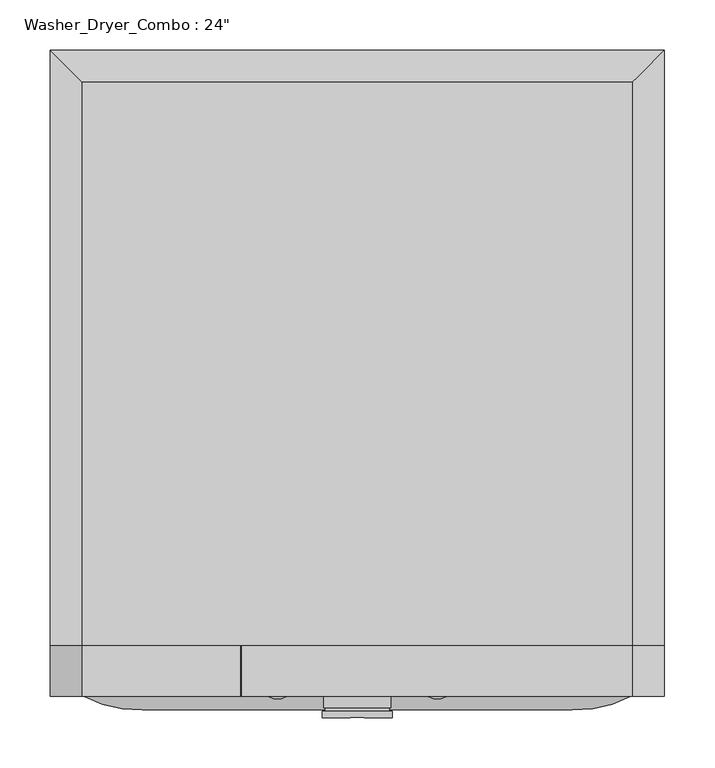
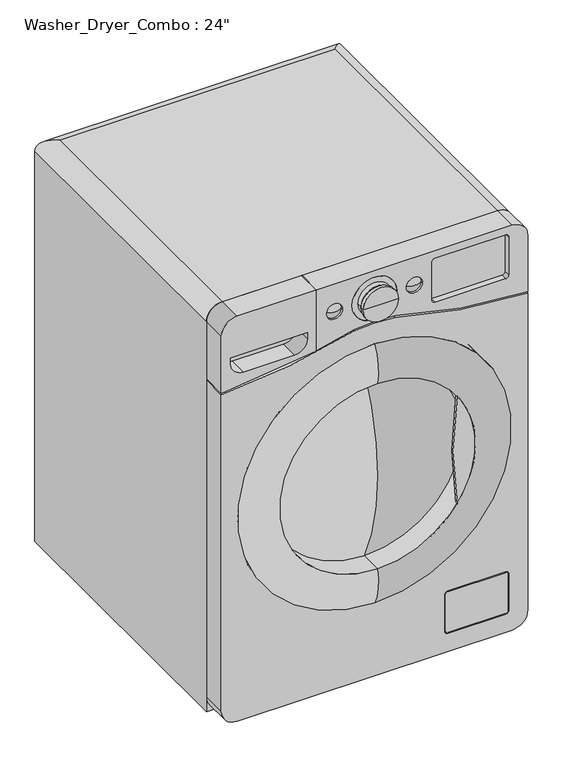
"""IFC4 building model written with IfcOpenShell, lengths in millimetres: proxy geometry."""

from ifc_helpers import new_model, si_unit, point, frame, frame_2d, origin, place, context, project, spatial, polyline, circle_curve, ellipse_curve, trimmed, segment, composite_curve, outline, extrude, source, transform, mapped, element, save
from ifc_brep_helpers import plane_surface, cylinder_surface, revolved_surface, advanced_brep


def proxy_f3e01b1d(model_context):
    return source(origin(), model_context, "Body", "SolidModel", [
        advanced_brep(
        [(-273.05, -692.15, 850.9), (273.05, -692.15, 850.9), (273.05, -133.35, 850.9), (-273.05, -133.35, 850.9), (304.8, -101.6, 0.0), (304.8, -692.15, 0.0), (-304.8, -692.15, 0.0), (-304.8, -101.6, 0.0), (-304.8, -101.6, 819.15), (304.8, -101.6, 819.15), (-304.8, -692.15, 819.15), (304.8, -692.15, 819.15)],
        [
            (0, 1),
            (1, 2),
            (2, 3),
            (3, 0),
            (4, 5),
            (5, 6),
            (6, 7),
            (7, 4),
            (7, 8),
            (8, 9),
            (9, 4),
            (6, 10),
            (10, 8),
            (5, 11),
            (11, 1, circle_curve(frame((273.05, -692.15, 819.15), z_axis=(0.0, -1.0, 0.0), x_axis=(-1.0, 0.0, 0.0)), 31.75)),
            (0, 10, circle_curve(frame((-273.05, -692.15, 819.15), z_axis=(0.0, -1.0, 0.0), x_axis=(1.0, 0.0, 0.0)), 31.75)),
            (9, 11),
            (9, 2, ellipse_curve(frame((273.05, -133.35, 819.15), z_axis=(0.7071067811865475, -0.7071067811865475, 0.0), x_axis=(0.7071067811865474, 0.7071067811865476, 0.0)), 44.9012806, 31.75)),
            (8, 3, ellipse_curve(frame((-273.05, -133.35, 819.15), z_axis=(0.7071067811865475, 0.7071067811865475, 0.0), x_axis=(-0.7071067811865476, 0.7071067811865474, 0.0)), 44.9012806, 31.75)),
        ],
        [
            plane_surface(frame((-304.8, -101.6, 850.9), z_axis=(0.0, 0.0, 1.0), x_axis=(-1.0, 0.0, 0.0))),
            plane_surface(frame((-304.8, -101.6, 0.0), z_axis=(0.0, 0.0, -1.0), x_axis=(1.0, 0.0, 0.0))),
            plane_surface(frame((304.8, -101.6, 850.9), z_axis=(0.0, 1.0, 0.0), x_axis=(0.0, 0.0, -1.0))),
            plane_surface(frame((-304.8, -101.6, 850.9), z_axis=(-1.0, 0.0, 0.0), x_axis=(0.0, 0.0, -1.0))),
            plane_surface(frame((-304.8, -692.15, 850.9), z_axis=(0.0, -1.0, 0.0), x_axis=(0.0, 0.0, -1.0))),
            plane_surface(frame((304.8, -692.15, 850.9), z_axis=(1.0, 0.0, 0.0), x_axis=(0.0, 0.0, -1.0))),
            cylinder_surface(frame((273.05, -692.15, 819.15), z_axis=(0.0, 1.0, 0.0), x_axis=(-1.0, 0.0, 0.0)), 31.75),
            cylinder_surface(frame((304.8, -133.35, 819.15), z_axis=(-1.0, 0.0, 0.0), x_axis=(0.0, -1.0, 0.0)), 31.75),
            cylinder_surface(frame((-273.05, -101.6, 819.15), z_axis=(0.0, -1.0, 0.0), x_axis=(1.0, 0.0, 0.0)), 31.75),
        ],
        [
            (0, [[1, 2, 3, 4]]),
            (1, [[5, 6, 7, 8]]),
            (2, [[-8, 9, 10, 11]]),
            (3, [[-7, 12, 13, -9]]),
            (4, [[-6, 14, 15, -1, 16, -12]]),
            (5, [[-5, -11, 17, -14]]),
            (6, [[18, -2, -15, -17]]),
            (7, [[-18, -10, 19, -3]]),
            (8, [[-19, -13, -16, -4]]),
        ],
    ),
        advanced_brep(
        [(273.05, -692.15, 850.9), (304.8, -692.15, 819.15), (304.8, -692.15, 700.0773423), (41.197628, -692.15, 742.0082685), (-41.197628, -692.15, 742.0082685), (-114.8640352, -692.15, 723.4158557), (-114.8640352, -692.15, 850.9), (-63.5, -692.15, 793.1071157), (-95.25, -692.15, 793.1071157), (95.25, -692.15, 793.1071157), (63.5, -692.15, 793.1071157), (-44.45, -692.15, 793.1071157), (44.45, -692.15, 793.1071157), (-41.197628, -742.95, 742.0082685), (41.197628, -742.95, 742.0082685), (304.8, -742.95, 700.0773423), (304.8, -742.95, 819.15), (273.05, -742.95, 850.9), (-114.8640352, -742.95, 850.9), (-114.8640352, -742.95, 723.4158557), (-63.5, -742.95, 793.1071157), (-95.25, -742.95, 793.1071157), (95.25, -742.95, 793.1071157), (63.5, -742.95, 793.1071157), (260.35, -742.95, 742.95), (120.65, -742.95, 742.95), (114.3, -742.95, 749.3), (114.3, -742.95, 828.675), (120.65, -742.95, 835.025), (260.35, -742.95, 835.025), (266.7, -742.95, 828.675), (266.7, -742.95, 749.3), (44.45, -742.95, 793.1071157), (-44.45, -742.95, 793.1071157), (260.35, -730.25, 742.95), (266.7, -730.25, 749.3), (266.7, -730.25, 828.675), (260.35, -730.25, 835.025), (120.65, -730.25, 835.025), (114.3, -730.25, 828.675), (114.3, -730.25, 749.3), (120.65, -730.25, 742.95)],
        [
            (0, 1, circle_curve(frame((273.05, -692.15, 819.15), z_axis=(0.0, 1.0, 0.0), x_axis=(-1.0, 0.0, 0.0)), 31.75)),
            (1, 2),
            (2, 3, circle_curve(frame((339.900978, -692.15, 1770.2876052), z_axis=(0.0, 1.0, 0.0), x_axis=(-1.0, 0.0, 0.0)), 1070.7857328)),
            (3, 4, circle_curve(frame((0.0, -692.15, 425.45), z_axis=(0.0, -1.0, 0.0), x_axis=(-1.0, 0.0, 0.0)), 319.22779)),
            (4, 5, circle_curve(frame((-339.900978, -692.15, 1770.2876052), z_axis=(0.0, 1.0, 0.0), x_axis=(-1.0, 0.0, 0.0)), 1070.7857328)),
            (5, 6),
            (6, 0),
            (7, 8, circle_curve(frame((-79.375, -692.15, 793.1071157), z_axis=(0.0, -1.0, 0.0), x_axis=(-1.0, 0.0, 0.0)), 15.875)),
            (8, 7, circle_curve(frame((-79.375, -692.15, 793.1071157), z_axis=(0.0, -1.0, 0.0), x_axis=(-1.0, 0.0, 0.0)), 15.875)),
            (9, 10, circle_curve(frame((79.375, -692.15, 793.1071157), z_axis=(0.0, -1.0, 0.0), x_axis=(-1.0, 0.0, 0.0)), 15.875)),
            (10, 9, circle_curve(frame((79.375, -692.15, 793.1071157), z_axis=(0.0, -1.0, 0.0), x_axis=(-1.0, 0.0, 0.0)), 15.875)),
            (11, 12, circle_curve(frame((0.0, -692.15, 793.1071157), z_axis=(0.0, -1.0, 0.0), x_axis=(-1.0, 0.0, 0.0)), 44.45)),
            (12, 11, circle_curve(frame((0.0, -692.15, 793.1071157), z_axis=(0.0, -1.0, 0.0), x_axis=(-1.0, 0.0, 0.0)), 44.45)),
            (13, 14, circle_curve(frame((0.0, -742.95, 425.45), z_axis=(0.0, 1.0, 0.0), x_axis=(-1.0, 0.0, 0.0)), 319.22779)),
            (14, 15, circle_curve(frame((339.900978, -742.95, 1770.2876052), z_axis=(0.0, -1.0, 0.0), x_axis=(-1.0, 0.0, 0.0)), 1070.7857328)),
            (15, 16),
            (16, 17, circle_curve(frame((273.05, -742.95, 819.15), z_axis=(0.0, -1.0, 0.0), x_axis=(-1.0, 0.0, 0.0)), 31.75)),
            (17, 18),
            (18, 19),
            (19, 13, circle_curve(frame((-339.900978, -742.95, 1770.2876052), z_axis=(0.0, -1.0, 0.0), x_axis=(-1.0, 0.0, 0.0)), 1070.7857328)),
            (20, 21, circle_curve(frame((-79.375, -742.95, 793.1071157), z_axis=(0.0, 1.0, 0.0), x_axis=(-1.0, 0.0, 0.0)), 15.875)),
            (21, 20, circle_curve(frame((-79.375, -742.95, 793.1071157), z_axis=(0.0, 1.0, 0.0), x_axis=(-1.0, 0.0, 0.0)), 15.875)),
            (22, 23, circle_curve(frame((79.375, -742.95, 793.1071157), z_axis=(0.0, 1.0, 0.0), x_axis=(-1.0, 0.0, 0.0)), 15.875)),
            (23, 22, circle_curve(frame((79.375, -742.95, 793.1071157), z_axis=(0.0, 1.0, 0.0), x_axis=(-1.0, 0.0, 0.0)), 15.875)),
            (24, 25),
            (25, 26, circle_curve(frame((120.65, -742.95, 749.3), z_axis=(0.0, 1.0, 0.0), x_axis=(-1.0, 0.0, 0.0)), 6.35)),
            (26, 27),
            (27, 28, circle_curve(frame((120.65, -742.95, 828.675), z_axis=(0.0, 1.0, 0.0), x_axis=(-1.0, 0.0, 0.0)), 6.35)),
            (28, 29),
            (29, 30, circle_curve(frame((260.35, -742.95, 828.675), z_axis=(0.0, 1.0, 0.0), x_axis=(-1.0, 0.0, 0.0)), 6.35)),
            (30, 31),
            (31, 24, circle_curve(frame((260.35, -742.95, 749.3), z_axis=(0.0, 1.0, 0.0), x_axis=(-1.0, 0.0, 0.0)), 6.35)),
            (32, 33, circle_curve(frame((0.0, -742.95, 793.1071157), z_axis=(0.0, 1.0, 0.0), x_axis=(-1.0, 0.0, 0.0)), 44.45)),
            (33, 32, circle_curve(frame((0.0, -742.95, 793.1071157), z_axis=(0.0, 1.0, 0.0), x_axis=(-1.0, 0.0, 0.0)), 44.45)),
            (17, 0),
            (6, 18),
            (16, 1),
            (15, 2),
            (14, 3),
            (13, 4),
            (19, 5),
            (34, 35, circle_curve(frame((260.35, -730.25, 749.3), z_axis=(0.0, -1.0, 0.0), x_axis=(-1.0, 0.0, 0.0)), 6.35)),
            (35, 36),
            (36, 37, circle_curve(frame((260.35, -730.25, 828.675), z_axis=(0.0, -1.0, 0.0), x_axis=(-1.0, 0.0, 0.0)), 6.35)),
            (37, 38),
            (38, 39, circle_curve(frame((120.65, -730.25, 828.675), z_axis=(0.0, -1.0, 0.0), x_axis=(-1.0, 0.0, 0.0)), 6.35)),
            (39, 40),
            (40, 41, circle_curve(frame((120.65, -730.25, 749.3), z_axis=(0.0, -1.0, 0.0), x_axis=(-1.0, 0.0, 0.0)), 6.35)),
            (41, 34),
            (41, 25),
            (24, 34),
            (40, 26),
            (39, 27),
            (38, 28),
            (37, 29),
            (36, 30),
            (35, 31),
            (7, 20),
            (21, 8),
            (9, 22),
            (23, 10),
            (11, 33),
            (32, 12),
        ],
        [
            plane_surface(frame((241.3, -692.15, 819.15), z_axis=(0.0, 1.0, 0.0), x_axis=(0.0, 0.0, 1.0))),
            plane_surface(frame((241.3, -742.95, 819.15), z_axis=(0.0, -1.0, 0.0), x_axis=(0.0, 0.0, -1.0))),
            plane_surface(frame((-273.05, -692.15, 850.9), z_axis=(0.0, 0.0, 1.0), x_axis=(0.0, -1.0, 0.0))),
            cylinder_surface(frame((273.05, -742.95, 819.15), z_axis=(0.0, 1.0, 0.0), x_axis=(-1.0, 0.0, 0.0)), 31.75),
            plane_surface(frame((304.8, -692.15, 819.15), z_axis=(1.0, 0.0, 0.0), x_axis=(0.0, -1.0, 0.0))),
            cylinder_surface(frame((339.900978, -742.95, 1770.2876052), z_axis=(0.0, 1.0, 0.0), x_axis=(-1.0, 0.0, 0.0)), 1070.7857328),
            revolved_surface(polyline([(-319.22779, -742.95, 425.45), (-319.22779, -692.15, 425.45)]), (0.0, -742.95, 425.45), (0.0, -1.0, 0.0)),
            cylinder_surface(frame((-339.900978, -742.95, 1770.2876052), z_axis=(0.0, 1.0, 0.0), x_axis=(-1.0, 0.0, 0.0)), 1070.7857328),
            plane_surface(frame((-114.8640352, -692.15, 850.9), z_axis=(-1.0, 0.0, 0.0), x_axis=(0.0, -1.0, 0.0))),
            plane_surface(frame((120.65, -730.25, 742.95), z_axis=(0.0, -1.0, 0.0), x_axis=(-1.0, 0.0, 0.0))),
            plane_surface(frame((260.35, -730.25, 742.95), z_axis=(0.0, 0.0, 1.0), x_axis=(0.0, -1.0, 0.0))),
            revolved_surface(polyline([(114.30000000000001, -730.25, 749.3), (114.30000000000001, -742.95, 749.3)]), (120.65, -742.95, 749.3), (0.0, 1.0, 0.0)),
            plane_surface(frame((114.3, -730.25, 749.3), z_axis=(1.0, 0.0, 0.0), x_axis=(0.0, -1.0, 0.0))),
            revolved_surface(polyline([(114.30000000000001, -730.25, 828.675), (114.30000000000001, -742.95, 828.675)]), (120.65, -742.95, 828.675), (0.0, 1.0, 0.0)),
            plane_surface(frame((120.65, -730.25, 835.025), z_axis=(0.0, 0.0, -1.0), x_axis=(0.0, -1.0, 0.0))),
            revolved_surface(polyline([(254.00000000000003, -730.25, 828.675), (254.00000000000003, -742.95, 828.675)]), (260.35, -742.95, 828.675), (0.0, 1.0, 0.0)),
            plane_surface(frame((266.7, -730.25, 828.675), z_axis=(-1.0, 0.0, 0.0), x_axis=(0.0, -1.0, 0.0))),
            revolved_surface(polyline([(254.00000000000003, -730.25, 749.3), (254.00000000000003, -742.95, 749.3)]), (260.35, -742.95, 749.3), (0.0, 1.0, 0.0)),
            revolved_surface(polyline([(-95.25, -742.95, 793.1071157), (-95.25, -692.15, 793.1071157)]), (-79.375, -742.95, 793.1071157), (0.0, -1.0, 0.0)),
            revolved_surface(polyline([(63.5, -742.95, 793.1071157), (63.5, -692.15, 793.1071157)]), (79.375, -742.95, 793.1071157), (0.0, -1.0, 0.0)),
            revolved_surface(polyline([(-44.45, -692.15, 793.1071157), (-44.45, -742.95, 793.1071157)]), (0.0, -742.95, 793.1071157), (0.0, 1.0, 0.0)),
        ],
        [
            (0, [[1, 2, 3, 4, 5, 6, 7], [8, 9], [10, 11], [12, 13]]),
            (1, [[14, 15, 16, 17, 18, 19, 20], [21, 22], [23, 24], [25, 26, 27, 28, 29, 30, 31, 32], [33, 34]]),
            (2, [[35, -7, 36, -18]]),
            (3, [[-1, -35, -17, 37]]),
            (4, [[-2, -37, -16, 38]]),
            (5, [[-3, -38, -15, 39]]),
            (6, [[-4, -39, -14, 40]]),
            (7, [[-40, -20, 41, -5]]),
            (8, [[-6, -41, -19, -36]]),
            (9, [[42, 43, 44, 45, 46, 47, 48, 49]]),
            (10, [[-49, 50, -25, 51]]),
            (11, [[-48, 52, -26, -50]]),
            (12, [[-47, 53, -27, -52]]),
            (13, [[-46, 54, -28, -53]]),
            (14, [[-45, 55, -29, -54]]),
            (15, [[-44, 56, -30, -55]]),
            (16, [[-43, 57, -31, -56]]),
            (17, [[-42, -51, -32, -57]]),
            (18, [[-8, 58, -22, 59]]),
            (18, [[-9, -59, -21, -58]]),
            (19, [[-10, 60, -24, 61]]),
            (19, [[-11, -61, -23, -60]]),
            (20, [[62, -33, 63, -12]]),
            (20, [[-62, -13, -63, -34]]),
        ],
    ),
        advanced_brep(
        [(-304.8, -692.15, 700.0773423), (-304.8, -692.15, 819.15), (-273.05, -692.15, 850.9), (-116.4515352, -692.15, 850.9), (-116.4515352, -692.15, 723.0758635), (-273.05, -742.95, 850.9), (-304.8, -742.95, 819.15), (-304.8, -742.95, 700.0773423), (-116.4515352, -742.95, 723.0758635), (-116.4515352, -742.95, 850.9), (-133.35, -742.95, 767.7071157), (-133.35, -742.95, 755.0071157), (-158.75, -742.95, 729.6071157), (-260.35, -742.95, 729.6071157), (-285.75, -742.95, 755.0071157), (-285.75, -742.95, 767.7071157), (-133.35, -704.85, 767.7071157), (-285.75, -704.85, 767.7071157), (-285.75, -704.85, 755.0071157), (-260.35, -704.85, 729.6071157), (-158.75, -704.85, 729.6071157), (-133.35, -704.85, 755.0071157)],
        [
            (0, 1),
            (1, 2, circle_curve(frame((-273.05, -692.15, 819.15), z_axis=(0.0, 1.0, 0.0), x_axis=(-1.0, 0.0, 0.0)), 31.75)),
            (2, 3),
            (3, 4),
            (4, 0, circle_curve(frame((-339.900978, -692.15, 1770.2876052), z_axis=(0.0, 1.0, 0.0), x_axis=(-1.0, 0.0, 0.0)), 1070.7857328)),
            (5, 6, circle_curve(frame((-273.05, -742.95, 819.15), z_axis=(0.0, -1.0, 0.0), x_axis=(-1.0, 0.0, 0.0)), 31.75)),
            (6, 7),
            (7, 8, circle_curve(frame((-339.900978, -742.95, 1770.2876052), z_axis=(0.0, -1.0, 0.0), x_axis=(-1.0, 0.0, 0.0)), 1070.7857328)),
            (8, 9),
            (9, 5),
            (10, 11),
            (11, 12, circle_curve(frame((-158.75, -742.95, 755.0071157), z_axis=(0.0, 1.0, 0.0), x_axis=(-1.0, 0.0, 0.0)), 25.4)),
            (12, 13),
            (13, 14, circle_curve(frame((-260.35, -742.95, 755.0071157), z_axis=(0.0, 1.0, 0.0), x_axis=(-1.0, 0.0, 0.0)), 25.4)),
            (14, 15),
            (15, 10),
            (2, 5),
            (9, 3),
            (7, 0),
            (4, 8),
            (6, 1),
            (16, 17),
            (17, 18),
            (18, 19, circle_curve(frame((-260.35, -704.85, 755.0071157), z_axis=(0.0, -1.0, 0.0), x_axis=(-1.0, 0.0, 0.0)), 25.4)),
            (19, 20),
            (20, 21, circle_curve(frame((-158.75, -704.85, 755.0071157), z_axis=(0.0, -1.0, 0.0), x_axis=(-1.0, 0.0, 0.0)), 25.4)),
            (21, 16),
            (21, 11),
            (10, 16),
            (20, 12),
            (19, 13),
            (18, 14),
            (17, 15),
        ],
        [
            plane_surface(frame((241.3, -692.15, 819.15), z_axis=(0.0, 1.0, 0.0), x_axis=(0.0, 0.0, 1.0))),
            plane_surface(frame((241.3, -742.95, 819.15), z_axis=(0.0, -1.0, 0.0), x_axis=(0.0, 0.0, -1.0))),
            plane_surface(frame((-273.05, -692.15, 850.9), z_axis=(0.0, 0.0, 1.0), x_axis=(0.0, -1.0, 0.0))),
            cylinder_surface(frame((-339.900978, -742.95, 1770.2876052), z_axis=(0.0, 1.0, 0.0), x_axis=(-1.0, 0.0, 0.0)), 1070.7857328),
            plane_surface(frame((-304.8, -692.15, 700.0773423), z_axis=(-1.0, 0.0, 0.0), x_axis=(0.0, -1.0, 0.0))),
            cylinder_surface(frame((-273.05, -742.95, 819.15), z_axis=(0.0, 1.0, 0.0), x_axis=(-1.0, 0.0, 0.0)), 31.75),
            plane_surface(frame((-133.35, -704.85, 767.7071157), z_axis=(0.0, -1.0, 0.0), x_axis=(0.0, 0.0, -1.0))),
            plane_surface(frame((-133.35, -704.85, 767.7071157), z_axis=(-1.0, 0.0, 0.0), x_axis=(0.0, -1.0, 0.0))),
            revolved_surface(polyline([(-184.15, -704.85, 755.0071157), (-184.15, -742.95, 755.0071157)]), (-158.75, -742.95, 755.0071157), (0.0, 1.0, 0.0)),
            plane_surface(frame((-158.75, -704.85, 729.6071157), z_axis=(0.0, 0.0, 1.0), x_axis=(0.0, -1.0, 0.0))),
            revolved_surface(polyline([(-285.75, -704.85, 755.0071157), (-285.75, -742.95, 755.0071157)]), (-260.35, -742.95, 755.0071157), (0.0, 1.0, 0.0)),
            plane_surface(frame((-285.75, -704.85, 755.0071157), z_axis=(1.0, 0.0, 0.0), x_axis=(0.0, -1.0, 0.0))),
            plane_surface(frame((-285.75, -704.85, 767.7071157), z_axis=(0.0, 0.0, -1.0), x_axis=(0.0, -1.0, 0.0))),
            plane_surface(frame((-116.4515352, -692.15, 722.1031644), z_axis=(1.0, 0.0, 0.0), x_axis=(0.0, -1.0, 0.0))),
        ],
        [
            (0, [[1, 2, 3, 4, 5]]),
            (1, [[6, 7, 8, 9, 10], [11, 12, 13, 14, 15, 16]]),
            (2, [[17, -10, 18, -3]]),
            (3, [[19, -5, 20, -8]]),
            (4, [[-1, -19, -7, 21]]),
            (5, [[-2, -21, -6, -17]]),
            (6, [[22, 23, 24, 25, 26, 27]]),
            (7, [[-27, 28, -11, 29]]),
            (8, [[-26, 30, -12, -28]]),
            (9, [[-25, 31, -13, -30]]),
            (10, [[-24, 32, -14, -31]]),
            (11, [[-23, 33, -15, -32]]),
            (12, [[-22, -29, -16, -33]]),
            (13, [[-4, -18, -9, -20]]),
        ],
    ),
        advanced_brep(
        [(-304.8, -692.15, 696.9008315), (-40.4210503, -692.15, 738.9278146), (40.4210503, -692.15, 738.9278146), (304.8, -692.15, 696.9008315), (304.8, -692.15, 31.75), (273.05, -692.15, 0.0), (-273.05, -692.15, 0.0), (-304.8, -692.15, 31.75), (254.0, -692.15, 425.45), (-254.0, -692.15, 425.45), (-304.8, -742.95, 696.9008315), (-304.8, -742.95, 31.75), (-273.05, -742.95, 0.0), (273.05, -742.95, 0.0), (304.8, -742.95, 31.75), (304.8, -742.95, 696.9008315), (40.4210503, -742.95, 738.9278146), (-40.4210503, -742.95, 738.9278146), (254.0, -742.95, 425.45), (-254.0, -742.95, 425.45), (266.7, -742.95, 120.65), (266.7, -742.95, 44.45), (260.35, -742.95, 38.1), (146.05, -742.95, 38.1), (139.7, -742.95, 44.45), (139.7, -742.95, 120.65), (146.05, -742.95, 127.0), (260.35, -742.95, 127.0), (265.1125, -742.95, 44.45), (265.1125, -742.95, 120.65), (260.35, -742.95, 125.4125), (146.05, -742.95, 125.4125), (141.2875, -742.95, 120.65), (141.2875, -742.95, 44.45), (146.05, -742.95, 39.6875), (260.35, -742.95, 39.6875), (265.1125, -729.45625, 44.45), (265.1125, -729.45625, 120.65), (266.7, -729.45625, 120.65), (266.7, -729.45625, 44.45), (146.05, -729.45625, 39.6875), (260.35, -729.45625, 39.6875), (260.35, -729.45625, 38.1), (146.05, -729.45625, 38.1), (141.2875, -729.45625, 120.65), (141.2875, -729.45625, 44.45), (139.7, -729.45625, 44.45), (139.7, -729.45625, 120.65), (260.35, -729.45625, 125.4125), (146.05, -729.45625, 125.4125), (146.05, -729.45625, 127.0), (260.35, -729.45625, 127.0)],
        [
            (0, 1, circle_curve(frame((-339.900978, -692.15, 1770.2876052), z_axis=(0.0, -1.0, 0.0), x_axis=(-1.0, 0.0, 0.0)), 1073.9605415)),
            (1, 2, circle_curve(frame((0.0, -692.15, 425.45), z_axis=(0.0, 1.0, 0.0), x_axis=(-1.0, 0.0, 0.0)), 316.0730953)),
            (2, 3, circle_curve(frame((339.900978, -692.15, 1770.2876052), z_axis=(0.0, -1.0, 0.0), x_axis=(-1.0, 0.0, 0.0)), 1073.9605415)),
            (3, 4),
            (4, 5, circle_curve(frame((273.05, -692.15, 31.75), z_axis=(0.0, 1.0, 0.0), x_axis=(-1.0, 0.0, 0.0)), 31.75)),
            (5, 6),
            (6, 7, circle_curve(frame((-273.05, -692.15, 31.75), z_axis=(0.0, 1.0, 0.0), x_axis=(-1.0, 0.0, 0.0)), 31.75)),
            (7, 0),
            (8, 9, circle_curve(frame((0.0, -692.15, 425.45), z_axis=(0.0, -1.0, 0.0), x_axis=(-1.0, 0.0, 0.0)), 254.0)),
            (9, 8, circle_curve(frame((0.0, -692.15, 425.45), z_axis=(0.0, -1.0, 0.0), x_axis=(-1.0, 0.0, 0.0)), 254.0)),
            (10, 11),
            (11, 12, circle_curve(frame((-273.05, -742.95, 31.75), z_axis=(0.0, -1.0, 0.0), x_axis=(-1.0, 0.0, 0.0)), 31.75)),
            (12, 13),
            (13, 14, circle_curve(frame((273.05, -742.95, 31.75), z_axis=(0.0, -1.0, 0.0), x_axis=(-1.0, 0.0, 0.0)), 31.75)),
            (14, 15),
            (15, 16, circle_curve(frame((339.900978, -742.95, 1770.2876052), z_axis=(0.0, 1.0, 0.0), x_axis=(-1.0, 0.0, 0.0)), 1073.9605415)),
            (16, 17, circle_curve(frame((0.0, -742.95, 425.45), z_axis=(0.0, -1.0, 0.0), x_axis=(-1.0, 0.0, 0.0)), 316.0730953)),
            (17, 10, circle_curve(frame((-339.900978, -742.95, 1770.2876052), z_axis=(0.0, 1.0, 0.0), x_axis=(-1.0, 0.0, 0.0)), 1073.9605415)),
            (18, 19, circle_curve(frame((0.0, -742.95, 425.45), z_axis=(0.0, 1.0, 0.0), x_axis=(-1.0, 0.0, 0.0)), 254.0)),
            (19, 18, circle_curve(frame((0.0, -742.95, 425.45), z_axis=(0.0, 1.0, 0.0), x_axis=(-1.0, 0.0, 0.0)), 254.0)),
            (20, 21),
            (21, 22, circle_curve(frame((260.35, -742.95, 44.45), z_axis=(0.0, 1.0, 0.0), x_axis=(1.0, 0.0, 0.0)), 6.35)),
            (22, 23),
            (23, 24, circle_curve(frame((146.05, -742.95, 44.45), z_axis=(0.0, 1.0, 0.0), x_axis=(0.0, 0.0, -1.0)), 6.35)),
            (24, 25),
            (25, 26, circle_curve(frame((146.05, -742.95, 120.65), z_axis=(0.0, 1.0, 0.0), x_axis=(-1.0, 0.0, 0.0)), 6.35)),
            (26, 27),
            (27, 20, circle_curve(frame((260.35, -742.95, 120.65), z_axis=(0.0, 1.0, 0.0), x_axis=(0.0, 0.0, 1.0)), 6.35)),
            (28, 29),
            (29, 30, circle_curve(frame((260.35, -742.95, 120.65), z_axis=(0.0, -1.0, 0.0), x_axis=(0.0, 0.0, 1.0)), 4.7625)),
            (30, 31),
            (31, 32, circle_curve(frame((146.05, -742.95, 120.65), z_axis=(0.0, -1.0, 0.0), x_axis=(-1.0, 0.0, 0.0)), 4.7625)),
            (32, 33),
            (33, 34, circle_curve(frame((146.05, -742.95, 44.45), z_axis=(0.0, -1.0, 0.0), x_axis=(0.0, 0.0, -1.0)), 4.7625)),
            (34, 35),
            (35, 28, circle_curve(frame((260.35, -742.95, 44.45), z_axis=(0.0, -1.0, 0.0), x_axis=(1.0, 0.0, 0.0)), 4.7625)),
            (3, 15),
            (14, 4),
            (5, 13),
            (12, 6),
            (7, 11),
            (10, 0),
            (17, 1),
            (16, 2),
            (8, 18),
            (19, 9),
            (28, 36),
            (36, 37),
            (37, 29),
            (38, 39),
            (39, 21),
            (20, 38),
            (34, 40),
            (40, 41),
            (41, 35),
            (42, 43),
            (43, 23),
            (22, 42),
            (32, 44),
            (44, 45),
            (45, 33),
            (46, 47),
            (47, 25),
            (24, 46),
            (30, 48),
            (48, 49),
            (49, 31),
            (50, 51),
            (51, 27),
            (26, 50),
            (37, 48, circle_curve(frame((260.35, -729.45625, 120.65), z_axis=(0.0, -1.0, 0.0), x_axis=(0.0, 0.0, 1.0)), 4.7625)),
            (51, 38, circle_curve(frame((260.35, -729.45625, 120.65), z_axis=(0.0, 1.0, 0.0), x_axis=(0.0, 0.0, 1.0)), 6.35)),
            (41, 36, circle_curve(frame((260.35, -729.45625, 44.45), z_axis=(0.0, -1.0, 0.0), x_axis=(1.0, 0.0, 0.0)), 4.7625)),
            (39, 42, circle_curve(frame((260.35, -729.45625, 44.45), z_axis=(0.0, 1.0, 0.0), x_axis=(1.0, 0.0, 0.0)), 6.35)),
            (45, 40, circle_curve(frame((146.05, -729.45625, 44.45), z_axis=(0.0, -1.0, 0.0), x_axis=(0.0, 0.0, -1.0)), 4.7625)),
            (43, 46, circle_curve(frame((146.05, -729.45625, 44.45), z_axis=(0.0, 1.0, 0.0), x_axis=(0.0, 0.0, -1.0)), 6.35)),
            (50, 47, circle_curve(frame((146.05, -729.45625, 120.65), z_axis=(0.0, -1.0, 0.0), x_axis=(-1.0, 0.0, 0.0)), 6.35)),
            (44, 49, circle_curve(frame((146.05, -729.45625, 120.65), z_axis=(0.0, 1.0, 0.0), x_axis=(-1.0, 0.0, 0.0)), 4.7625)),
        ],
        [
            plane_surface(frame((241.3, -692.15, 819.15), z_axis=(0.0, 1.0, 0.0), x_axis=(0.0, 0.0, 1.0))),
            plane_surface(frame((241.3, -742.95, 819.15), z_axis=(0.0, -1.0, 0.0), x_axis=(0.0, 0.0, -1.0))),
            plane_surface(frame((304.8, -692.15, 696.9008315), z_axis=(1.0, 0.0, 0.0), x_axis=(0.0, -1.0, 0.0))),
            plane_surface(frame((273.05, -692.15, 0.0), z_axis=(0.0, 0.0, -1.0), x_axis=(0.0, -1.0, 0.0))),
            plane_surface(frame((-304.8, -692.15, 31.75), z_axis=(-1.0, 0.0, 0.0), x_axis=(0.0, -1.0, 0.0))),
            revolved_surface(polyline([(-1413.8615195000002, -742.95, 1770.2876052), (-1413.8615195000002, -692.15, 1770.2876052)]), (-339.900978, -742.95, 1770.2876052), (0.0, -1.0, 0.0)),
            cylinder_surface(frame((0.0, -742.95, 425.45), z_axis=(0.0, 1.0, 0.0), x_axis=(-1.0, 0.0, 0.0)), 316.0730953),
            revolved_surface(polyline([(-734.0595635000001, -742.95, 1770.2876052), (-734.0595635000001, -692.15, 1770.2876052)]), (339.900978, -742.95, 1770.2876052), (0.0, -1.0, 0.0)),
            cylinder_surface(frame((273.05, -742.95, 31.75), z_axis=(0.0, 1.0, 0.0), x_axis=(-1.0, 0.0, 0.0)), 31.75),
            cylinder_surface(frame((-273.05, -742.95, 31.75), z_axis=(0.0, 1.0, 0.0), x_axis=(-1.0, 0.0, 0.0)), 31.75),
            revolved_surface(polyline([(-254.0, -742.95, 425.45), (-254.0, -692.15, 425.45)]), (0.0, -742.95, 425.45), (0.0, -1.0, 0.0)),
            plane_surface(frame((265.1125, -729.45625, 120.65), z_axis=(1.0, 0.0, 0.0), x_axis=(0.0, 0.0, -1.0))),
            plane_surface(frame((266.7, -742.95, 120.65), z_axis=(-1.0, 0.0, 0.0), x_axis=(0.0, 0.0, -1.0))),
            plane_surface(frame((260.35, -729.45625, 39.6875), z_axis=(0.0, 0.0, -1.0), x_axis=(-1.0, 0.0, 0.0))),
            plane_surface(frame((260.35, -742.95, 38.1), z_axis=(0.0, 0.0, 1.0), x_axis=(-1.0, 0.0, 0.0))),
            plane_surface(frame((141.2875, -729.45625, 44.45), z_axis=(-1.0, 0.0, 0.0), x_axis=(0.0, 0.0, 1.0))),
            plane_surface(frame((139.7, -742.95, 44.45), z_axis=(1.0, 0.0, 0.0), x_axis=(0.0, 0.0, 1.0))),
            plane_surface(frame((146.05, -729.45625, 125.4125), z_axis=(0.0, 0.0, 1.0), x_axis=(1.0, 0.0, 0.0))),
            plane_surface(frame((146.05, -742.95, 127.0), z_axis=(0.0, 0.0, -1.0), x_axis=(1.0, 0.0, 0.0))),
            cylinder_surface(frame((260.35, -742.95, 120.65), z_axis=(0.0, 1.0, 0.0), x_axis=(0.0, 0.0, 1.0)), 4.7625),
            revolved_surface(polyline([(260.35, -729.45625, 127.0), (260.35, -742.95, 127.0)]), (260.35, -742.95, 120.65), (0.0, 1.0, 0.0)),
            cylinder_surface(frame((260.35, -742.95, 44.45), z_axis=(0.0, 1.0, 0.0), x_axis=(1.0, 0.0, 0.0)), 4.7625),
            revolved_surface(polyline([(266.70000000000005, -729.45625, 44.45), (266.70000000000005, -742.95, 44.45)]), (260.35, -742.95, 44.45), (0.0, 1.0, 0.0)),
            cylinder_surface(frame((146.05, -742.95, 44.45), z_axis=(0.0, 1.0, 0.0), x_axis=(0.0, 0.0, -1.0)), 4.7625),
            revolved_surface(polyline([(146.05, -729.45625, 38.1), (146.05, -742.95, 38.1)]), (146.05, -742.95, 44.45), (0.0, 1.0, 0.0)),
            plane_surface(frame((146.05, -729.45625, 120.65), z_axis=(0.0, -1.0, 0.0), x_axis=(-1.0, 0.0, 0.0))),
            cylinder_surface(frame((146.05, -742.95, 120.65), z_axis=(0.0, 1.0, 0.0), x_axis=(-1.0, 0.0, 0.0)), 4.7625),
            revolved_surface(polyline([(139.70000000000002, -729.45625, 120.65), (139.70000000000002, -742.95, 120.65)]), (146.05, -742.95, 120.65), (0.0, 1.0, 0.0)),
        ],
        [
            (0, [[1, 2, 3, 4, 5, 6, 7, 8], [9, 10]]),
            (1, [[11, 12, 13, 14, 15, 16, 17, 18], [19, 20], [21, 22, 23, 24, 25, 26, 27, 28]]),
            (1, [[29, 30, 31, 32, 33, 34, 35, 36]]),
            (2, [[-4, 37, -15, 38]]),
            (3, [[-6, 39, -13, 40]]),
            (4, [[-8, 41, -11, 42]]),
            (5, [[-1, -42, -18, 43]]),
            (6, [[-2, -43, -17, 44]]),
            (7, [[-3, -44, -16, -37]]),
            (8, [[-5, -38, -14, -39]]),
            (9, [[-7, -40, -12, -41]]),
            (10, [[-9, 45, -20, 46]]),
            (10, [[-10, -46, -19, -45]]),
            (11, [[47, 48, 49, -29]]),
            (12, [[50, 51, -21, 52]]),
            (13, [[53, 54, 55, -35]]),
            (14, [[56, 57, -23, 58]]),
            (15, [[59, 60, 61, -33]]),
            (16, [[62, 63, -25, 64]]),
            (17, [[65, 66, 67, -31]]),
            (18, [[68, 69, -27, 70]]),
            (19, [[-49, 71, -65, -30]]),
            (20, [[-52, -28, -69, 72]]),
            (21, [[-47, -36, -55, 73]]),
            (22, [[-51, 74, -58, -22]]),
            (23, [[-53, -34, -61, 75]]),
            (24, [[-57, 76, -64, -24]]),
            (25, [[-50, -72, -68, 77, -62, -76, -56, -74], [-48, -73, -54, -75, -60, 78, -66, -71]]),
            (26, [[-59, -32, -67, -78]]),
            (27, [[-63, -77, -70, -26]]),
        ],
    ),
        advanced_brep(
        [(0.0, -692.15, 230.5611611), (0.0, -692.15, 620.3388389), (0.0, -692.15, 425.45), (0.0, -707.1856465, 230.5611611), (0.0, -707.1856465, 620.3388389), (0.0, -752.9940862, 425.45)],
        [
            (0, 1, circle_curve(frame((0.0, -692.15, 425.45), z_axis=(0.0, 1.0, 0.0), x_axis=(0.0, 0.0, 1.0)), 194.8888389)),
            (1, 2),
            (2, 0),
            (1, 0, circle_curve(frame((0.0, -692.15, 425.45), z_axis=(0.0, 1.0, 0.0), x_axis=(0.0, 0.0, 1.0)), 194.8888389)),
            (3, 4, circle_curve(frame((0.0, -707.1856465, 425.45), z_axis=(0.0, 1.0, 0.0), x_axis=(0.0, 0.0, 1.0)), 194.8888389)),
            (4, 1),
            (0, 3),
            (4, 3, circle_curve(frame((0.0, -707.1856465, 425.45), z_axis=(0.0, 1.0, 0.0), x_axis=(0.0, 0.0, 1.0)), 194.8888389)),
            (5, 4, circle_curve(frame((0.0, -315.5193225, 425.45), z_axis=(-1.0, 0.0, 0.0), x_axis=(0.0, 1.0, 0.0)), 437.4747638)),
            (3, 5, circle_curve(frame((0.0, -315.5193225, 425.45), z_axis=(-1.0, 0.0, 0.0), x_axis=(0.0, 1.0, 0.0)), 437.4747638)),
        ],
        [
            plane_surface(frame((0.0, -692.15, 425.45), z_axis=(0.0, 1.0, 0.0), x_axis=(0.0, 0.0, 1.0))),
            cylinder_surface(frame((0.0, 2097.4086068, 425.45), z_axis=(0.0, -1.0, 0.0), x_axis=(0.0, 0.0, 1.0)), 194.8888389),
            revolved_surface(trimmed(ellipse_curve(frame((0.0, -315.5193225, 425.45), z_axis=(1.0, 0.0, 0.0), x_axis=(0.0, 1.0, 0.0)), 437.4747638, 437.4747638), [point((0.0, -707.1856465, 620.3388389))], [point((0.0, -752.9940862, 425.45))], True, "CARTESIAN"), (0.0, 2097.4086068, 425.45), (0.0, -1.0, 0.0)),
        ],
        [
            (0, [[1, 2, 3]]),
            (0, [[4, -3, -2]]),
            (1, [[5, 6, -1, 7]]),
            (1, [[8, -7, -4, -6]]),
            (2, [[9, -5, 10]]),
            (2, [[-10, -8, -9]]),
        ],
    ),
        advanced_brep(
        [(0.0, -753.1304538, 230.5611611), (0.0, -753.1304538, 620.3388389), (0.0, -742.95, 698.5), (0.0, -742.95, 152.4), (0.0, -692.15, 230.5611611), (0.0, -692.15, 620.3388389), (0.0, -692.15, 152.4), (0.0, -692.15, 698.5)],
        [
            (0, 1, circle_curve(frame((0.0, -753.1304538, 425.45), z_axis=(0.0, 1.0, 0.0), x_axis=(0.0, 0.0, 1.0)), 194.8888389)),
            (1, 2, circle_curve(frame((0.0, -646.5552478, 646.2010496), z_axis=(-1.0, 0.0, 0.0), x_axis=(0.0, 1.0, 0.0)), 109.6682655)),
            (2, 3, circle_curve(frame((0.0, -742.95, 425.45), z_axis=(0.0, -1.0, 0.0), x_axis=(0.0, 0.0, 1.0)), 273.05)),
            (3, 0, circle_curve(frame((0.0, -646.5552478, 204.6989504), z_axis=(-1.0, 0.0, 0.0), x_axis=(0.0, 1.0, 0.0)), 109.6682655)),
            (1, 0, circle_curve(frame((0.0, -753.1304538, 425.45), z_axis=(0.0, 1.0, 0.0), x_axis=(0.0, 0.0, 1.0)), 194.8888389)),
            (3, 2, circle_curve(frame((0.0, -742.95, 425.45), z_axis=(0.0, -1.0, 0.0), x_axis=(0.0, 0.0, 1.0)), 273.05)),
            (4, 5, circle_curve(frame((0.0, -692.15, 425.45), z_axis=(0.0, 1.0, 0.0), x_axis=(0.0, 0.0, 1.0)), 194.8888389)),
            (5, 1),
            (0, 4),
            (5, 4, circle_curve(frame((0.0, -692.15, 425.45), z_axis=(0.0, 1.0, 0.0), x_axis=(0.0, 0.0, 1.0)), 194.8888389)),
            (6, 7, circle_curve(frame((0.0, -692.15, 425.45), z_axis=(0.0, 1.0, 0.0), x_axis=(0.0, 0.0, 1.0)), 273.05)),
            (7, 5),
            (4, 6),
            (7, 6, circle_curve(frame((0.0, -692.15, 425.45), z_axis=(0.0, 1.0, 0.0), x_axis=(0.0, 0.0, 1.0)), 273.05)),
            (2, 7),
            (6, 3),
        ],
        [
            revolved_surface(trimmed(ellipse_curve(frame((0.0, -646.5552478, 646.2010496), z_axis=(1.0, 0.0, 0.0), x_axis=(0.0, 1.0, 0.0)), 109.6682655, 109.6682655), [point((0.0, -742.95, 698.5))], [point((0.0, -753.1304538, 620.3388389))], True, "CARTESIAN"), (0.0, 2097.4086068, 425.45), (0.0, -1.0, 0.0)),
            revolved_surface(polyline([(0.0, -753.1304537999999, 620.3388388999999), (0.0, -692.1500000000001, 620.3388388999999)]), (0.0, 2097.4086068, 425.45), (0.0, -1.0, 0.0)),
            plane_surface(frame((0.0, -692.15, 425.45), z_axis=(0.0, 1.0, 0.0), x_axis=(0.0, 0.0, 1.0))),
            cylinder_surface(frame((0.0, 2097.4086068, 425.45), z_axis=(0.0, -1.0, 0.0), x_axis=(0.0, 0.0, 1.0)), 273.05),
        ],
        [
            (0, [[1, 2, 3, 4]]),
            (0, [[5, -4, 6, -2]]),
            (1, [[7, 8, -1, 9]]),
            (1, [[10, -9, -5, -8]]),
            (2, [[11, 12, -7, 13]]),
            (2, [[14, -13, -10, -12]]),
            (3, [[-3, 15, -11, 16]]),
            (3, [[-6, -16, -14, -15]]),
        ],
    ),
        extrude(outline(composite_curve([segment(trimmed(circle_curve(frame_2d((793.1071157, 0.0)), 44.45), [point((793.1071157, 44.45))], [point((793.1071157, -44.45))], False, "CARTESIAN"), True, "CONTINUOUS"), segment(trimmed(circle_curve(frame_2d((793.1071157, 0.0)), 44.45), [point((793.1071157, -44.45))], [point((793.1071157, 44.45))], False, "CARTESIAN"), True, "CONTINUOUS")], self_intersect=False)), frame((0.0, -742.95, 0.0), z_axis=(0.0, 1.0, 0.0), x_axis=(0.0, 0.0, 1.0)), (0.0, 0.0, 1.0), 50.8),
        extrude(outline(composite_curve([segment(trimmed(circle_curve(frame_2d((425.45, 0.0)), 194.8888389), [point((311.9507643, 158.4284792))], [point((538.9492357, 158.4284792))], False, "CARTESIAN"), True, "CONTINUOUS"), segment(trimmed(circle_curve(frame_2d((425.45, 885.8247467)), 736.1979397), [point((538.9492357, 158.4284792))], [point((311.9507643, 158.4284792))], False, "CARTESIAN"), True, "CONTINUOUS")], self_intersect=False)), frame((0.0, -753.1304538, 0.0), z_axis=(0.0, 1.0, 0.0), x_axis=(0.0, 0.0, 1.0)), (0.0, 0.0, 1.0), 3.5920829),
        advanced_brep(
        [(79.375, -745.3059326, 793.1071157), (63.5, -738.9559326, 793.1071157), (95.25, -738.9559326, 793.1071157), (79.375, -738.9559326, 793.1071157)],
        [
            (0, 1, circle_curve(frame((81.0201143, -718.1743968, 793.1071157), z_axis=(0.0, 0.0, -1.0), x_axis=(-1.0, 0.0, 0.0)), 27.1813656)),
            (1, 2, circle_curve(frame((79.375, -738.9559326, 793.1071157), z_axis=(0.0, -1.0, 0.0), x_axis=(-1.0, 0.0, 0.0)), 15.875)),
            (2, 0, circle_curve(frame((77.7298857, -718.1743968, 793.1071157), z_axis=(0.0, 0.0, -1.0), x_axis=(1.0, 0.0, 0.0)), 27.1813656)),
            (2, 1, circle_curve(frame((79.375, -738.9559326, 793.1071157), z_axis=(0.0, -1.0, 0.0), x_axis=(-1.0, 0.0, 0.0)), 15.875)),
            (1, 3),
            (3, 2),
        ],
        [
            revolved_surface(trimmed(ellipse_curve(frame((81.0201143, -718.1743968, 793.1071157), z_axis=(0.0, 0.0, 1.0), x_axis=(-1.0, 0.0, 0.0)), 27.1813656, 27.1813656), [point((63.5, -738.9559326, 793.1071157))], [point((79.375, -745.3059326, 793.1071157))], True, "CARTESIAN"), (79.375, -797.6651131, 793.1071157), (0.0, -1.0, 0.0)),
            plane_surface(frame((79.375, -738.9559326, 793.1071157), z_axis=(0.0, 1.0, 0.0), x_axis=(-1.0, 0.0, 0.0))),
        ],
        [
            (0, [[1, 2, 3]]),
            (0, [[-3, 4, -1]]),
            (1, [[-2, 5, 6]]),
            (1, [[-4, -6, -5]]),
        ],
    ),
        advanced_brep(
        [(-79.375, -745.3059326, 793.1071157), (-95.25, -738.9559326, 793.1071157), (-63.5, -738.9559326, 793.1071157), (-79.375, -738.9559326, 793.1071157)],
        [
            (0, 1, circle_curve(frame((-77.7298857, -718.1743968, 793.1071157), z_axis=(0.0, 0.0, -1.0), x_axis=(-1.0, 0.0, 0.0)), 27.1813656)),
            (1, 2, circle_curve(frame((-79.375, -738.9559326, 793.1071157), z_axis=(0.0, -1.0, 0.0), x_axis=(-1.0, 0.0, 0.0)), 15.875)),
            (2, 0, circle_curve(frame((-81.0201143, -718.1743968, 793.1071157), z_axis=(0.0, 0.0, -1.0), x_axis=(1.0, 0.0, 0.0)), 27.1813656)),
            (2, 1, circle_curve(frame((-79.375, -738.9559326, 793.1071157), z_axis=(0.0, -1.0, 0.0), x_axis=(-1.0, 0.0, 0.0)), 15.875)),
            (1, 3),
            (3, 2),
        ],
        [
            revolved_surface(trimmed(ellipse_curve(frame((-77.7298857, -718.1743968, 793.1071157), z_axis=(0.0, 0.0, 1.0), x_axis=(-1.0, 0.0, 0.0)), 27.1813656, 27.1813656), [point((-95.25, -738.9559326, 793.1071157))], [point((-79.375, -745.3059326, 793.1071157))], True, "CARTESIAN"), (-79.375, -797.6651131, 793.1071157), (0.0, -1.0, 0.0)),
            plane_surface(frame((-79.375, -738.9559326, 793.1071157), z_axis=(0.0, 1.0, 0.0), x_axis=(-1.0, 0.0, 0.0))),
        ],
        [
            (0, [[1, 2, 3]]),
            (0, [[-3, 4, -1]]),
            (1, [[-2, 5, 6]]),
            (1, [[-4, -6, -5]]),
        ],
    ),
        advanced_brep(
        [(33.3375, -736.6, 793.1071157), (-33.3375, -736.6, 793.1071157), (0.0, -736.6, 793.1071157), (33.3375, -754.5199252, 793.1071157), (-33.3375, -754.5199252, 793.1071157), (31.75, -754.5199252, 793.1071157), (-31.75, -754.5199252, 793.1071157), (31.75, -757.6949252, 793.1071157), (-31.75, -757.6949252, 793.1071157), (34.925, -757.6949252, 793.1071157), (-34.925, -757.6949252, 793.1071157), (34.925, -764.0449252, 793.1071157), (-34.925, -764.0449252, 793.1071157), (0.0, -764.0449252, 793.1071157)],
        [
            (0, 1, circle_curve(frame((0.0, -736.6, 793.1071157), z_axis=(0.0, 1.0, 0.0), x_axis=(-1.0, 0.0, 0.0)), 33.3375)),
            (1, 2),
            (2, 0),
            (1, 0, circle_curve(frame((0.0, -736.6, 793.1071157), z_axis=(0.0, 1.0, 0.0), x_axis=(-1.0, 0.0, 0.0)), 33.3375)),
            (3, 4, circle_curve(frame((0.0, -754.5199252, 793.1071157), z_axis=(0.0, 1.0, 0.0), x_axis=(-1.0, 0.0, 0.0)), 33.3375)),
            (4, 1),
            (0, 3),
            (4, 3, circle_curve(frame((0.0, -754.5199252, 793.1071157), z_axis=(0.0, 1.0, 0.0), x_axis=(-1.0, 0.0, 0.0)), 33.3375)),
            (5, 6, circle_curve(frame((0.0, -754.5199252, 793.1071157), z_axis=(0.0, 1.0, 0.0), x_axis=(-1.0, 0.0, 0.0)), 31.75)),
            (6, 4),
            (3, 5),
            (6, 5, circle_curve(frame((0.0, -754.5199252, 793.1071157), z_axis=(0.0, 1.0, 0.0), x_axis=(-1.0, 0.0, 0.0)), 31.75)),
            (7, 8, circle_curve(frame((0.0, -757.6949252, 793.1071157), z_axis=(0.0, 1.0, 0.0), x_axis=(-1.0, 0.0, 0.0)), 31.75)),
            (8, 6),
            (5, 7),
            (8, 7, circle_curve(frame((0.0, -757.6949252, 793.1071157), z_axis=(0.0, 1.0, 0.0), x_axis=(-1.0, 0.0, 0.0)), 31.75)),
            (9, 10, circle_curve(frame((0.0, -757.6949252, 793.1071157), z_axis=(0.0, 1.0, 0.0), x_axis=(-1.0, 0.0, 0.0)), 34.925)),
            (10, 8),
            (7, 9),
            (10, 9, circle_curve(frame((0.0, -757.6949252, 793.1071157), z_axis=(0.0, 1.0, 0.0), x_axis=(-1.0, 0.0, 0.0)), 34.925)),
            (11, 12, circle_curve(frame((0.0, -764.0449252, 793.1071157), z_axis=(0.0, 1.0, 0.0), x_axis=(-1.0, 0.0, 0.0)), 34.925)),
            (12, 10),
            (9, 11),
            (12, 11, circle_curve(frame((0.0, -764.0449252, 793.1071157), z_axis=(0.0, 1.0, 0.0), x_axis=(-1.0, 0.0, 0.0)), 34.925)),
            (13, 12),
            (11, 13),
        ],
        [
            plane_surface(frame((0.0, -736.6, 793.1071157), z_axis=(0.0, 1.0, 0.0), x_axis=(-1.0, 0.0, 0.0))),
            cylinder_surface(frame((0.0, 1524.0, 793.1071157), z_axis=(0.0, -1.0, 0.0), x_axis=(-1.0, 0.0, 0.0)), 33.3375),
            plane_surface(frame((0.0, -754.5199252, 793.1071157), z_axis=(0.0, -1.0, 0.0), x_axis=(-1.0, 0.0, 0.0))),
            cylinder_surface(frame((0.0, 1524.0, 793.1071157), z_axis=(0.0, -1.0, 0.0), x_axis=(-1.0, 0.0, 0.0)), 31.75),
            plane_surface(frame((0.0, -757.6949252, 793.1071157), z_axis=(0.0, 1.0, 0.0), x_axis=(-1.0, 0.0, 0.0))),
            cylinder_surface(frame((0.0, 1524.0, 793.1071157), z_axis=(0.0, -1.0, 0.0), x_axis=(-1.0, 0.0, 0.0)), 34.925),
            plane_surface(frame((0.0, -764.0449252, 793.1071157), z_axis=(0.0, -1.0, 0.0), x_axis=(-1.0, 0.0, 0.0))),
        ],
        [
            (0, [[1, 2, 3]]),
            (0, [[4, -3, -2]]),
            (1, [[5, 6, -1, 7]]),
            (1, [[8, -7, -4, -6]]),
            (2, [[9, 10, -5, 11]]),
            (2, [[12, -11, -8, -10]]),
            (3, [[13, 14, -9, 15]]),
            (3, [[16, -15, -12, -14]]),
            (4, [[17, 18, -13, 19]]),
            (4, [[20, -19, -16, -18]]),
            (5, [[21, 22, -17, 23]]),
            (5, [[24, -23, -20, -22]]),
            (6, [[25, -21, 26]]),
            (6, [[-26, -24, -25]]),
        ],
    ),
    ])


if __name__ == "__main__":
    model = new_model("IFC4")
    model_context = context("Model", 3, world=origin())
    ifc_project = project(units=[si_unit("LENGTHUNIT", "METRE", prefix="MILLI")], contexts=[model_context])
    site = spatial("IfcSite", under=ifc_project)
    building = spatial("IfcBuilding", under=site)
    placement = place(None, origin())
    proxy_shape = proxy_f3e01b1d(model_context)
    element("IfcBuildingElementProxy", 1, Name="Washer_Dryer_Combo : 24\"", ObjectType="Washer_Dryer_Combo : 24\"", at=placement, inside=building, context=model_context, shape_type="MappedRepresentation", body=[
        mapped(proxy_shape, transform((0.0, 0.0, 0.0), x_axis=(1.0, 0.0, 0.0), y_axis=(0.0, 1.0, 0.0), z_axis=(0.0, 0.0, 1.0))),
    ])
    save(model, "model.ifc")
